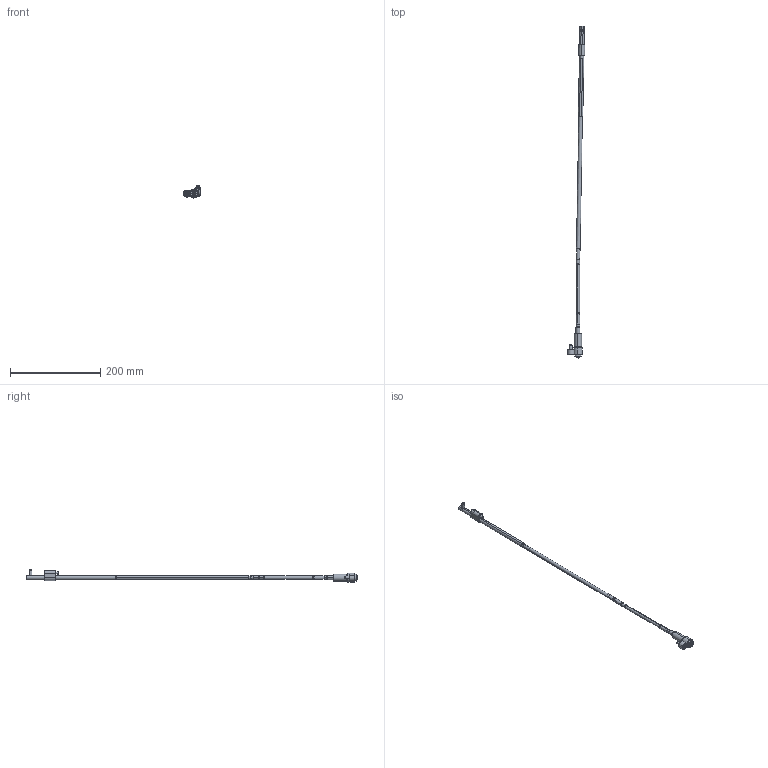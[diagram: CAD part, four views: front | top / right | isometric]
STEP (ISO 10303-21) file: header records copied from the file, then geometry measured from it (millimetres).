
FILE_DESCRIPTION (( 'STEP AP214' ), '1' );
FILE_NAME ('WL080100L-INJ 1°.STEP', '2021-03-19T15:25:58', ( '' ), ( '' ), 'SwSTEP 2.0', 'SolidWorks 2019', '' );
FILE_SCHEMA (( 'AUTOMOTIVE_DESIGN' ));
Length unit declared in the file: millimetre
Products named in the file (17): Web-WL08-F00.SLDPRT; 9DR2206-TOR; WL080100-B1_WL0800FF-1; Web-WL08-A2; Web-WP08-1; Web-WL08XX-A7_OFF-WL080100-1; WL080100-B_WL0800FF; WL080100-C; Web-WL08-A3; WL080100-E; WL080100L-INJ 1°; Web-WL08-A1; Web-WL08-F01; 3IMAN4X2-150_con sello; WL080100-D; 1DIN912616_DIN 912 M6 x 16 --- 16C; 1DIN912545_DIN 912 M5 x 50 --- 50C
Assembly tree (16 placements, depth 3):
  WL080100L-INJ 1°
    Web-WP08-1
    Web-WL08XX-A7_OFF-WL080100-1
    Web-WL08-A3
    Web-WL08-A2
    Web-WL08-A1
    WL080100-D
    WL080100-C
    WL080100-B_WL0800FF
      WL080100-B1_WL0800FF-1
      3IMAN4X2-150_con sello
    WL080100-E
    9DR2206-TOR
    Web-WL08-F00.SLDPRT
      Web-WL08-F01
      1DIN912545_DIN 912 M5 x 50 --- 50C
      1DIN912616_DIN 912 M6 x 16 --- 16C
Bounding box: 38.93 x 737.01 x 26.9 mm (x, y, z)
Volume: 57313.8 mm3; surface area: 33636.2 mm2
Topology: 15 solids, 15 shells, 424 faces, 888 edges, 516 vertices
Faces by surface type: plane 132, cylinder 128, cone 116, torus 48
Entity records: 13492 total; most frequent: DIRECTION 2218, CARTESIAN_POINT 2045, ORIENTED_EDGE 1756, AXIS2_PLACEMENT_3D 921, EDGE_CURVE 878, VERTEX_POINT 516, CIRCLE 476, EDGE_LOOP 468
